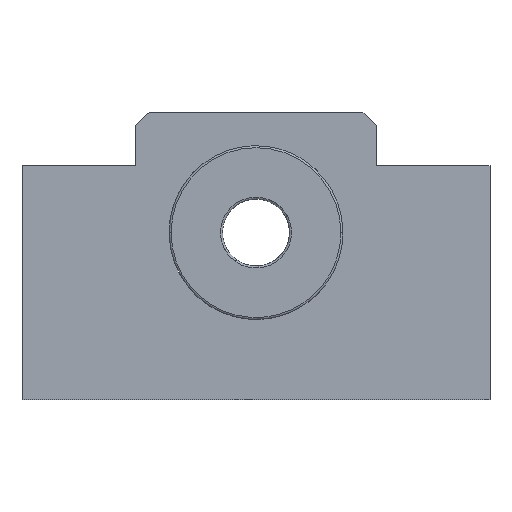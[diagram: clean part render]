
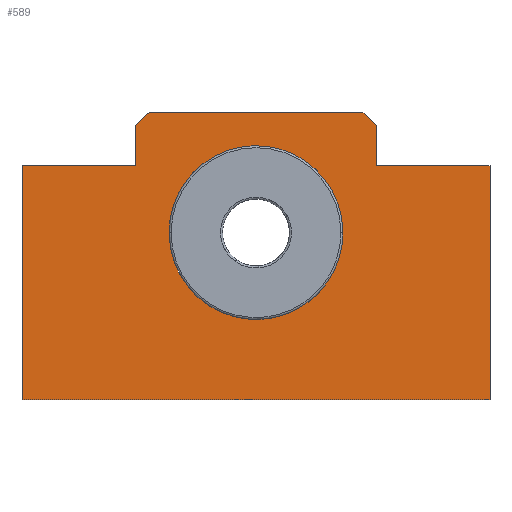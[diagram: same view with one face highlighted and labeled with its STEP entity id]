
A CAD part, left-side view. The second image highlights one B-rep face of the part: STEP entity #589.
In plain terms, the highlighted planar face has unit normal (-1, 0, 0).
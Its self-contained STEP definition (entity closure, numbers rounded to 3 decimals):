
#304=CARTESIAN_POINT('Vertex',(-10.,35.,10.)) ;
#309=CARTESIAN_POINT('Line Origine',(-10.,26.5,10.)) ;
#313=CARTESIAN_POINT('Vertex',(-10.,18.,10.)) ;
#348=CARTESIAN_POINT('Vertex',(-10.,-35.,-25.)) ;
#353=CARTESIAN_POINT('Line Origine',(-10.,0.,-25.)) ;
#357=CARTESIAN_POINT('Vertex',(-10.,35.,-25.)) ;
#448=CARTESIAN_POINT('Line Origine',(-10.,35.,-7.5)) ;
#465=CARTESIAN_POINT('Axis2P3D Location',(-10.,0.,0.)) ;
#470=CARTESIAN_POINT('Line Origine',(-10.,-17.,17.)) ;
#474=CARTESIAN_POINT('Vertex',(-10.,-16.,18.)) ;
#476=CARTESIAN_POINT('Vertex',(-10.,-18.,16.)) ;
#479=CARTESIAN_POINT('Line Origine',(-10.,0.,18.)) ;
#483=CARTESIAN_POINT('Vertex',(-10.,16.,18.)) ;
#486=CARTESIAN_POINT('Line Origine',(-10.,17.,17.)) ;
#490=CARTESIAN_POINT('Vertex',(-10.,18.,16.)) ;
#493=CARTESIAN_POINT('Line Origine',(-10.,18.,13.)) ;
#498=CARTESIAN_POINT('Line Origine',(-10.,-35.,-7.5)) ;
#502=CARTESIAN_POINT('Vertex',(-10.,-35.,10.)) ;
#505=CARTESIAN_POINT('Line Origine',(-10.,-26.5,10.)) ;
#509=CARTESIAN_POINT('Vertex',(-10.,-18.,10.)) ;
#512=CARTESIAN_POINT('Line Origine',(-10.,-18.,13.)) ;
#530=CARTESIAN_POINT('Control Point',(-10.,-11.409,6.233)) ;
#531=CARTESIAN_POINT('Control Point',(-10.,-10.816,7.317)) ;
#532=CARTESIAN_POINT('Control Point',(-10.,-10.094,8.332)) ;
#533=CARTESIAN_POINT('Control Point',(-10.,-9.254,9.256)) ;
#534=CARTESIAN_POINT('Control Point',(-10.,-7.372,10.886)) ;
#535=CARTESIAN_POINT('Control Point',(-10.,-5.16,12.029)) ;
#536=CARTESIAN_POINT('Control Point',(-10.,-3.99,12.466)) ;
#537=CARTESIAN_POINT('Control Point',(-10.,-1.57,13.053)) ;
#538=CARTESIAN_POINT('Control Point',(-10.,0.92,13.056)) ;
#539=CARTESIAN_POINT('Control Point',(-10.,2.16,12.909)) ;
#540=CARTESIAN_POINT('Control Point',(-10.,4.58,12.323)) ;
#541=CARTESIAN_POINT('Control Point',(-10.,6.796,11.186)) ;
#542=CARTESIAN_POINT('Control Point',(-10.,7.831,10.488)) ;
#543=CARTESIAN_POINT('Control Point',(-10.,9.714,8.859)) ;
#544=CARTESIAN_POINT('Control Point',(-10.,11.163,6.834)) ;
#545=CARTESIAN_POINT('Control Point',(-10.,11.763,5.739)) ;
#546=CARTESIAN_POINT('Control Point',(-10.,12.692,3.429)) ;
#547=CARTESIAN_POINT('Control Point',(-10.,13.053,0.965)) ;
#548=CARTESIAN_POINT('Control Point',(-10.,13.086,-0.283)) ;
#549=CARTESIAN_POINT('Control Point',(-10.,12.899,-2.274)) ;
#550=CARTESIAN_POINT('Control Point',(-10.,12.342,-4.186)) ;
#551=CARTESIAN_POINT('Control Point',(-10.,12.08,-4.891)) ;
#552=CARTESIAN_POINT('Control Point',(-10.,11.768,-5.575)) ;
#553=CARTESIAN_POINT('Control Point',(-10.,11.409,-6.233)) ;
#554=CARTESIAN_POINT('Vertex',(-10.,11.409,-6.233)) ;
#556=CARTESIAN_POINT('Vertex',(-10.,-11.409,6.233)) ;
#560=CARTESIAN_POINT('Control Point',(-10.,11.409,-6.233)) ;
#561=CARTESIAN_POINT('Control Point',(-10.,10.816,-7.317)) ;
#562=CARTESIAN_POINT('Control Point',(-10.,10.094,-8.332)) ;
#563=CARTESIAN_POINT('Control Point',(-10.,9.254,-9.256)) ;
#564=CARTESIAN_POINT('Control Point',(-10.,7.372,-10.886)) ;
#565=CARTESIAN_POINT('Control Point',(-10.,5.16,-12.029)) ;
#566=CARTESIAN_POINT('Control Point',(-10.,3.99,-12.466)) ;
#567=CARTESIAN_POINT('Control Point',(-10.,1.57,-13.053)) ;
#568=CARTESIAN_POINT('Control Point',(-10.,-0.92,-13.056)) ;
#569=CARTESIAN_POINT('Control Point',(-10.,-2.16,-12.909)) ;
#570=CARTESIAN_POINT('Control Point',(-10.,-4.58,-12.323)) ;
#571=CARTESIAN_POINT('Control Point',(-10.,-6.796,-11.186)) ;
#572=CARTESIAN_POINT('Control Point',(-10.,-7.831,-10.488)) ;
#573=CARTESIAN_POINT('Control Point',(-10.,-9.714,-8.859)) ;
#574=CARTESIAN_POINT('Control Point',(-10.,-11.163,-6.834)) ;
#575=CARTESIAN_POINT('Control Point',(-10.,-11.763,-5.739)) ;
#576=CARTESIAN_POINT('Control Point',(-10.,-12.692,-3.429)) ;
#577=CARTESIAN_POINT('Control Point',(-10.,-13.053,-0.965)) ;
#578=CARTESIAN_POINT('Control Point',(-10.,-13.086,0.283)) ;
#579=CARTESIAN_POINT('Control Point',(-10.,-12.899,2.274)) ;
#580=CARTESIAN_POINT('Control Point',(-10.,-12.342,4.186)) ;
#581=CARTESIAN_POINT('Control Point',(-10.,-12.08,4.891)) ;
#582=CARTESIAN_POINT('Control Point',(-10.,-11.768,5.575)) ;
#583=CARTESIAN_POINT('Control Point',(-10.,-11.409,6.233)) ;
#310=DIRECTION('Vector Direction',(0.,1.,0.)) ;
#354=DIRECTION('Vector Direction',(0.,-1.,0.)) ;
#449=DIRECTION('Vector Direction',(0.,0.,-1.)) ;
#466=DIRECTION('Axis2P3D Direction',(1.,0.,0.)) ;
#467=DIRECTION('Axis2P3D XDirection',(0.,1.,0.)) ;
#471=DIRECTION('Vector Direction',(0.,-0.707,-0.707)) ;
#480=DIRECTION('Vector Direction',(0.,1.,0.)) ;
#487=DIRECTION('Vector Direction',(0.,0.707,-0.707)) ;
#494=DIRECTION('Vector Direction',(0.,0.,-1.)) ;
#499=DIRECTION('Vector Direction',(0.,0.,1.)) ;
#506=DIRECTION('Vector Direction',(0.,1.,0.)) ;
#513=DIRECTION('Vector Direction',(0.,0.,1.)) ;
#468=AXIS2_PLACEMENT_3D('Plane Axis2P3D',#465,#466,#467) ;
#518=ORIENTED_EDGE('',*,*,#478,.F.) ;
#519=ORIENTED_EDGE('',*,*,#485,.F.) ;
#520=ORIENTED_EDGE('',*,*,#492,.F.) ;
#521=ORIENTED_EDGE('',*,*,#497,.F.) ;
#522=ORIENTED_EDGE('',*,*,#315,.F.) ;
#523=ORIENTED_EDGE('',*,*,#452,.F.) ;
#524=ORIENTED_EDGE('',*,*,#359,.F.) ;
#525=ORIENTED_EDGE('',*,*,#504,.F.) ;
#526=ORIENTED_EDGE('',*,*,#511,.F.) ;
#527=ORIENTED_EDGE('',*,*,#516,.F.) ;
#586=ORIENTED_EDGE('',*,*,#558,.T.) ;
#587=ORIENTED_EDGE('',*,*,#584,.T.) ;
#588=FACE_BOUND('',#585,.T.) ;
#311=VECTOR('Line Direction',#310,1.) ;
#355=VECTOR('Line Direction',#354,1.) ;
#450=VECTOR('Line Direction',#449,1.) ;
#472=VECTOR('Line Direction',#471,1.) ;
#481=VECTOR('Line Direction',#480,1.) ;
#488=VECTOR('Line Direction',#487,1.) ;
#495=VECTOR('Line Direction',#494,1.) ;
#500=VECTOR('Line Direction',#499,1.) ;
#507=VECTOR('Line Direction',#506,1.) ;
#514=VECTOR('Line Direction',#513,1.) ;
#589=ADVANCED_FACE('AF12(H)',(#528,#588),#469,.F.) ;
#529=B_SPLINE_CURVE_WITH_KNOTS('',5,(#530,#531,#532,#533,#534,#535,#536,#537,#538,#539,#540,#541,#542,#543,#544,#545,#546,#547,#548,#549,#550,#551,#552,#553),.UNSPECIFIED.,.F.,.U.,(6,3,3,3,3,3,3,6),(0.,8.762,17.524,26.285,35.047,43.809,52.571,57.883),.UNSPECIFIED.) ;
#559=B_SPLINE_CURVE_WITH_KNOTS('',5,(#560,#561,#562,#563,#564,#565,#566,#567,#568,#569,#570,#571,#572,#573,#574,#575,#576,#577,#578,#579,#580,#581,#582,#583),.UNSPECIFIED.,.F.,.U.,(6,3,3,3,3,3,3,6),(0.,8.762,17.524,26.285,35.047,43.809,52.571,57.883),.UNSPECIFIED.) ;
#315=EDGE_CURVE('',#305,#314,#312,.F.) ;
#359=EDGE_CURVE('',#349,#358,#356,.F.) ;
#452=EDGE_CURVE('',#358,#305,#451,.F.) ;
#478=EDGE_CURVE('',#475,#477,#473,.T.) ;
#485=EDGE_CURVE('',#484,#475,#482,.F.) ;
#492=EDGE_CURVE('',#491,#484,#489,.F.) ;
#497=EDGE_CURVE('',#314,#491,#496,.F.) ;
#504=EDGE_CURVE('',#503,#349,#501,.F.) ;
#511=EDGE_CURVE('',#510,#503,#508,.F.) ;
#516=EDGE_CURVE('',#477,#510,#515,.F.) ;
#558=EDGE_CURVE('',#555,#557,#529,.F.) ;
#584=EDGE_CURVE('',#557,#555,#559,.F.) ;
#517=EDGE_LOOP('',(#518,#519,#520,#521,#522,#523,#524,#525,#526,#527)) ;
#585=EDGE_LOOP('',(#586,#587)) ;
#528=FACE_OUTER_BOUND('',#517,.T.) ;
#312=LINE('Line',#309,#311) ;
#356=LINE('Line',#353,#355) ;
#451=LINE('Line',#448,#450) ;
#473=LINE('Line',#470,#472) ;
#482=LINE('Line',#479,#481) ;
#489=LINE('Line',#486,#488) ;
#496=LINE('Line',#493,#495) ;
#501=LINE('Line',#498,#500) ;
#508=LINE('Line',#505,#507) ;
#515=LINE('Line',#512,#514) ;
#469=PLANE('Plane',#468) ;
#305=VERTEX_POINT('',#304) ;
#314=VERTEX_POINT('',#313) ;
#349=VERTEX_POINT('',#348) ;
#358=VERTEX_POINT('',#357) ;
#475=VERTEX_POINT('',#474) ;
#477=VERTEX_POINT('',#476) ;
#484=VERTEX_POINT('',#483) ;
#491=VERTEX_POINT('',#490) ;
#503=VERTEX_POINT('',#502) ;
#510=VERTEX_POINT('',#509) ;
#555=VERTEX_POINT('',#554) ;
#557=VERTEX_POINT('',#556) ;
